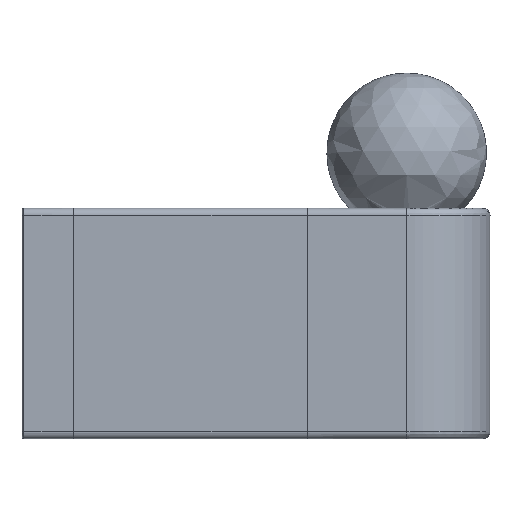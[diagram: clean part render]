
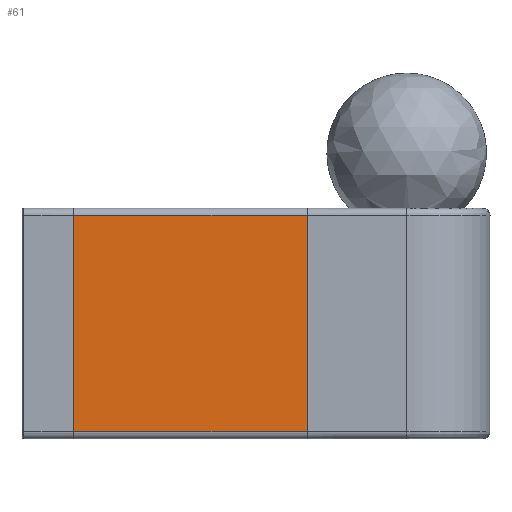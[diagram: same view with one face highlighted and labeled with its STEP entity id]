
A CAD part, left-side view. The second image highlights one B-rep face of the part: STEP entity #61.
In plain terms, the highlighted planar face has unit normal (1, 0, 0).
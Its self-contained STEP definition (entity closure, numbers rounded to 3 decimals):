
#61=ADVANCED_FACE('',(#187),#2024,.T.);
#187=FACE_OUTER_BOUND('',#313,.T.);
#313=EDGE_LOOP('',(#540,#541,#542,#543));
#540=ORIENTED_EDGE('',*,*,#1119,.T.);
#541=ORIENTED_EDGE('',*,*,#1120,.T.);
#542=ORIENTED_EDGE('',*,*,#1121,.T.);
#543=ORIENTED_EDGE('',*,*,#1122,.T.);
#1119=EDGE_CURVE('',#1750,#1751,#1391,.T.);
#1120=EDGE_CURVE('',#1751,#1752,#1392,.T.);
#1121=EDGE_CURVE('',#1752,#1753,#1393,.T.);
#1122=EDGE_CURVE('',#1753,#1750,#1394,.T.);
#1391=B_SPLINE_CURVE_WITH_KNOTS('',1,(#4729,#4730),.UNSPECIFIED.,.F.,.F.,
(2,2),(0.,66.),.UNSPECIFIED.);
#1392=B_SPLINE_CURVE_WITH_KNOTS('',1,(#4731,#4732),.UNSPECIFIED.,.F.,.F.,
(2,2),(0.,61.),.UNSPECIFIED.);
#1393=B_SPLINE_CURVE_WITH_KNOTS('',1,(#4733,#4734),.UNSPECIFIED.,.F.,.F.,
(2,2),(-66.,0.),.UNSPECIFIED.);
#1394=B_SPLINE_CURVE_WITH_KNOTS('',1,(#4735,#4736),.UNSPECIFIED.,.F.,.F.,
(2,2),(-61.,0.),.UNSPECIFIED.);
#1750=VERTEX_POINT('',#4334);
#1751=VERTEX_POINT('',#4335);
#1752=VERTEX_POINT('',#4336);
#1753=VERTEX_POINT('',#4337);
#2024=PLANE('',#2052);
#2052=AXIS2_PLACEMENT_3D('',#3180,#2064,$);
#2064=DIRECTION('',(1.,0.,0.));
#3180=CARTESIAN_POINT('',(-23.408,-14.616,3.5));
#4334=CARTESIAN_POINT('',(-23.408,-14.616,3.5));
#4335=CARTESIAN_POINT('',(-23.409,51.384,3.501));
#4336=CARTESIAN_POINT('',(-23.408,51.384,64.501));
#4337=CARTESIAN_POINT('',(-23.408,-14.616,64.5));
#4729=CARTESIAN_POINT('',(-23.408,-14.616,3.5));
#4730=CARTESIAN_POINT('',(-23.409,51.384,3.501));
#4731=CARTESIAN_POINT('',(-23.409,51.384,3.501));
#4732=CARTESIAN_POINT('',(-23.408,51.384,64.501));
#4733=CARTESIAN_POINT('',(-23.408,51.384,64.501));
#4734=CARTESIAN_POINT('',(-23.408,-14.616,64.5));
#4735=CARTESIAN_POINT('',(-23.408,-14.616,64.5));
#4736=CARTESIAN_POINT('',(-23.408,-14.616,3.5));
